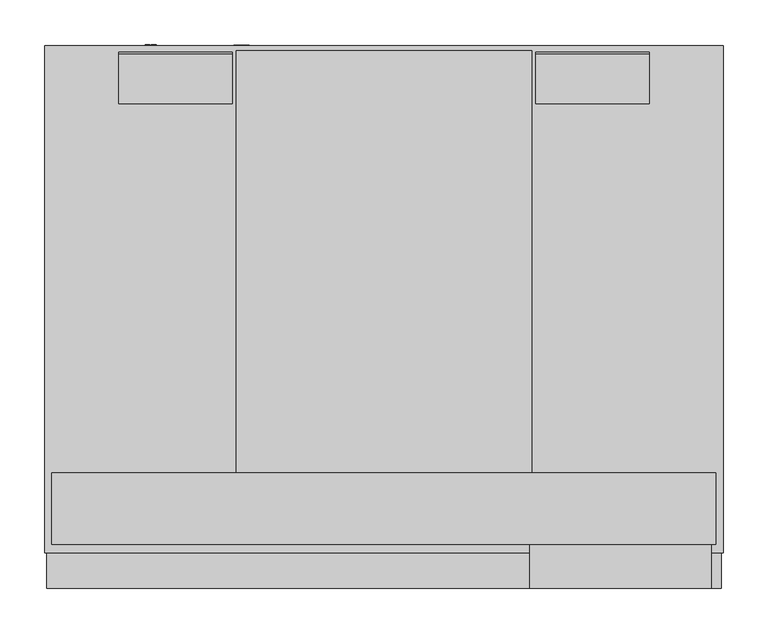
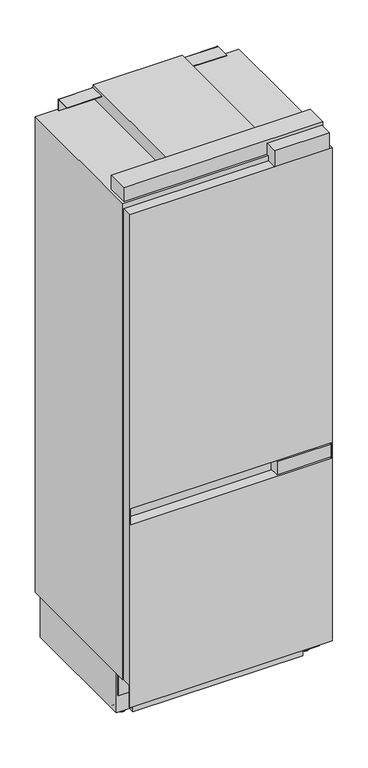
"""IFC4 building model written with IfcOpenShell, lengths in millimetres: proxy geometry, 12866490_GB_KFMC3834_R : 38383400_GB_12866490_KFMC3834_R."""

from ifc_helpers import new_model, si_unit, point, frame, frame_2d, origin, place, context, project, spatial, polyline, circle_curve, trimmed, segment, composite_curve, outline, extrude, faceted_brep, source, transform, mapped, element, save
from ifc_brep_helpers import plane_surface, cylinder_surface, advanced_brep


def specialty_equipment_2ff7b730(model_context):
    return source(origin(), model_context, "Body", "SolidModel", [
        extrude(outline(polyline([(372.4, 19.5805006), (172.4, 19.5805006), (172.4, 59.5250826), (372.4, 59.5250826), (372.4, 19.5805006)])), frame((0.0, 0.0, 828.4), z_axis=(0.0, 0.0, 1.0), x_axis=(1.0, 0.0, 0.0)), (0.0, 0.0, 1.0), 50.4801375),
        faceted_brep([(378.4, 19.5805006, 2048.9273907), (378.4, 19.5805006, 100.0958717), (378.4, 22.474204, 100.0958717), (378.4, 22.474204, 187.4499998), (378.4, 95.0, 187.4499998), (378.4, 95.0, 100.0958717), (378.4, 99.0001378, 100.0958717), (378.4, 99.0001378, 2048.9273907), (-378.4, 19.5805006, 2048.9273907), (-378.4, 99.0001378, 2048.9273907), (-378.4, 99.0001378, 100.0958717), (-378.4, 95.0, 100.0958717), (-378.4, 95.0, 187.4499998), (-378.4, 22.474204, 187.4499998), (-378.4, 22.474204, 100.0958717), (-378.4, 19.5805006, 100.0958717), (-374.4, 19.5805006, 884.8801375), (374.4, 19.5805006, 884.8801375), (374.4, 19.5805006, 822.4), (-374.4, 19.5805006, 822.4), (374.4, 93.7083842, 884.8801375), (-374.4, 93.7083842, 884.8801375), (-374.4, 93.7083842, 822.4), (374.4, 93.7083842, 822.4)], [[[0, 1, 2, 3, 4, 5, 6, 7]], [[8, 9, 10, 11, 12, 13, 14, 15]], [[1, 0, 8, 15], [16, 17, 18, 19]], [[1, 15, 14, 2]], [[10, 6, 5, 11]], [[7, 6, 10, 9]], [[0, 7, 9, 8]], [[13, 3, 2, 14]], [[4, 12, 11, 5]], [[3, 13, 12, 4]], [[20, 21, 22, 23]], [[21, 20, 17, 16]], [[22, 21, 16, 19]], [[23, 22, 19, 18]], [[20, 23, 18, 17]]]),
        extrude(outline(polyline([(367.3072021, 19.5805006), (163.5444763, 19.5805006), (163.5444763, 69.0), (367.3072021, 69.0), (367.3072021, 19.5805006)])), frame((0.0, 0.0, 2048.9273907), z_axis=(0.0, 0.0, 1.0), x_axis=(1.0, 0.0, 0.0)), (0.0, 0.0, 1.0), 63.9078998),
        extrude(outline(composite_curve([segment(trimmed(circle_curve(frame_2d((619.3046941, 2111.8999939)), 2.5), [point((619.3046941, 2114.3999939))], [point((621.8046941, 2111.8999939))], False, "CARTESIAN"), True, "CONTINUOUS"), segment(polyline([(621.8046941, 2111.8999939), (621.8046941, 2068.8999998), (619.3046941, 2068.8999998), (619.3046941, 2112.2000427), (563.7854458, 2112.2000427), (563.7854458, 2114.3999939), (619.3046941, 2114.3999939)]), True, "CONTINUOUS")], self_intersect=False)), frame((170.0666274, 0.0, 0.0), z_axis=(1.0, 0.0, 0.0), x_axis=(0.0, 1.0, 0.0)), (0.0, 0.0, 1.0), 127.807223),
        extrude(outline(composite_curve([segment(trimmed(circle_curve(frame_2d((619.3046941, 2111.8999939)), 2.5), [point((619.3046941, 2114.3999939))], [point((621.8046941, 2111.8999939))], False, "CARTESIAN"), True, "CONTINUOUS"), segment(polyline([(621.8046941, 2111.8999939), (621.8046941, 2068.8999998), (619.3046941, 2068.8999998), (619.3046941, 2112.2000427), (563.7854458, 2112.2000427), (563.7854458, 2114.3999939), (619.3046941, 2114.3999939)]), True, "CONTINUOUS")], self_intersect=False)), frame((-297.8738504, 0.0, 0.0), z_axis=(1.0, 0.0, 0.0), x_axis=(0.0, 1.0, 0.0)), (0.0, 0.0, 1.0), 127.807223),
        faceted_brep([(381.0, 628.6068181, 2068.8999998), (-381.0, 628.6068181, 2068.8999998), (-381.0, 59.5250826, 2068.8999998), (381.0, 59.5250826, 2068.8999998), (381.0, 628.6068181, 187.4499998), (381.0, 59.5250826, 187.4499998), (-381.0, 59.5250826, 187.4499998), (-381.0, 628.6068181, 187.4499998), (-332.0265198, 59.5250826, 1999.0), (332.0265198, 59.5250826, 1999.0), (332.0265198, 59.5250826, 920.0), (-332.0265198, 59.5250826, 920.0), (-332.0265198, 59.5250826, 777.0), (332.0265198, 59.5250826, 777.0), (332.0265198, 59.5250826, 250.0), (-332.0265198, 59.5250826, 250.0), (332.0265198, 551.4500008, 1999.0), (-332.0265198, 551.4500008, 1999.0), (-332.0265198, 551.4500008, 920.0), (332.0265198, 551.4500008, 920.0), (332.0265198, 535.9500008, 777.0), (-332.0265198, 535.9500008, 777.0), (-332.0265198, 535.9500008, 250.0), (332.0265198, 535.9500008, 250.0)], [[[0, 1, 2, 3]], [[4, 5, 6, 7]], [[0, 3, 5, 4]], [[3, 2, 6, 5], [8, 9, 10, 11], [12, 13, 14, 15]], [[2, 1, 7, 6]], [[1, 0, 4, 7]], [[16, 17, 18, 19]], [[17, 16, 9, 8]], [[18, 17, 8, 11]], [[19, 18, 11, 10]], [[16, 19, 10, 9]], [[20, 21, 22, 23]], [[21, 20, 13, 12]], [[22, 21, 12, 15]], [[23, 22, 15, 14]], [[20, 23, 14, 13]]]),
        advanced_brep(
        [(-379.5, 599.2160102, 187.4499998), (379.5, 599.2160102, 187.4499998), (379.5, 599.2160102, 27.500001), (317.3898346, 599.2160102, 27.500001), (317.3898346, 599.2160102, 10.4), (-317.3898346, 599.2160102, 10.4), (-317.3898346, 599.2160102, 27.500001), (-379.5, 599.2160102, 27.500001), (379.5, 104.7548719, 187.4499998), (-379.5, 104.7548719, 187.4499998), (-379.5, 104.7548719, 27.500001), (-317.3898346, 104.7548719, 27.500001), (-317.3898346, 104.7548719, 10.4), (317.3898346, 104.7548719, 10.4), (317.3898346, 104.7548719, 27.500001), (379.5, 104.7548719, 27.500001), (-337.4950732, 165.898232, 25.006546), (-337.4950732, 215.911324, 25.006546), (-337.4950732, 215.7866997, 27.500001), (-337.4950732, 166.0228563, 27.500001), (-337.4950732, 488.6286933, 25.006546), (-337.4950732, 538.6417854, 25.006546), (-337.4950732, 538.517161, 27.500001), (-337.4950732, 488.7533177, 27.500001), (-355.0, 215.911324, 25.006546), (-355.0, 165.898232, 25.006546), (-355.0, 166.0228563, 27.500001), (-355.0, 215.7866997, 27.500001), (-355.0, 538.6417854, 25.006546), (-355.0, 488.6286933, 25.006546), (-355.0, 488.7533177, 27.500001), (-355.0, 538.517161, 27.500001), (355.0, 165.898139, 25.006546), (355.0, 215.911231, 25.006546), (355.0, 215.7866067, 27.500001), (355.0, 166.0227633, 27.500001), (355.0, 488.6286933, 25.006546), (355.0, 538.6417854, 25.006546), (355.0, 538.517161, 27.500001), (355.0, 488.7533177, 27.500001), (337.4950732, 215.911231, 25.006546), (337.4950732, 165.898139, 25.006546), (337.4950732, 166.0227633, 27.500001), (337.4950732, 215.7866067, 27.500001), (337.4950732, 538.6417854, 25.006546), (337.4950732, 488.6286933, 25.006546), (337.4950732, 488.7533177, 27.500001), (337.4950732, 538.517161, 27.500001)],
        [
            (0, 1),
            (1, 2),
            (2, 3),
            (3, 4),
            (4, 5),
            (5, 6),
            (6, 7),
            (7, 0),
            (8, 9),
            (9, 10),
            (10, 11),
            (11, 12),
            (12, 13),
            (13, 14),
            (14, 15),
            (15, 8),
            (0, 9),
            (8, 1),
            (7, 10),
            (4, 13),
            (12, 5),
            (15, 2),
            (16, 17, circle_curve(frame((-337.4950732, 190.904778, 25.006546), z_axis=(1.0, 0.0, 0.0), x_axis=(0.0, 1.0, 0.0)), 25.006546)),
            (17, 18, circle_curve(frame((-337.4950732, 190.904778, 25.006546), z_axis=(1.0, 0.0, 0.0), x_axis=(0.0, 1.0, 0.0)), 25.006546)),
            (18, 19),
            (19, 16, circle_curve(frame((-337.4950732, 190.904778, 25.006546), z_axis=(1.0, 0.0, 0.0), x_axis=(0.0, 1.0, 0.0)), 25.006546)),
            (20, 21, circle_curve(frame((-337.4950732, 513.6352393, 25.006546), z_axis=(1.0, 0.0, 0.0), x_axis=(0.0, 1.0, 0.0)), 25.006546)),
            (21, 22, circle_curve(frame((-337.4950732, 513.6352393, 25.006546), z_axis=(1.0, 0.0, 0.0), x_axis=(0.0, 1.0, 0.0)), 25.006546)),
            (22, 23),
            (23, 20, circle_curve(frame((-337.4950732, 513.6352393, 25.006546), z_axis=(1.0, 0.0, 0.0), x_axis=(0.0, 1.0, 0.0)), 25.006546)),
            (24, 25, circle_curve(frame((-355.0, 190.904778, 25.006546), z_axis=(-1.0, 0.0, 0.0), x_axis=(0.0, 1.0, 0.0)), 25.006546)),
            (25, 26, circle_curve(frame((-355.0, 190.904778, 25.006546), z_axis=(-1.0, 0.0, 0.0), x_axis=(0.0, 1.0, 0.0)), 25.006546)),
            (26, 27),
            (27, 24, circle_curve(frame((-355.0, 190.904778, 25.006546), z_axis=(-1.0, 0.0, 0.0), x_axis=(0.0, 1.0, 0.0)), 25.006546)),
            (28, 29, circle_curve(frame((-355.0, 513.6352393, 25.006546), z_axis=(-1.0, 0.0, 0.0), x_axis=(0.0, 1.0, 0.0)), 25.006546)),
            (29, 30, circle_curve(frame((-355.0, 513.6352393, 25.006546), z_axis=(-1.0, 0.0, 0.0), x_axis=(0.0, 1.0, 0.0)), 25.006546)),
            (30, 31),
            (31, 28, circle_curve(frame((-355.0, 513.6352393, 25.006546), z_axis=(-1.0, 0.0, 0.0), x_axis=(0.0, 1.0, 0.0)), 25.006546)),
            (16, 25),
            (24, 17),
            (20, 29),
            (28, 21),
            (32, 33, circle_curve(frame((355.0, 190.904685, 25.006546), z_axis=(1.0, 0.0, 0.0), x_axis=(0.0, 1.0, 0.0)), 25.006546)),
            (33, 34, circle_curve(frame((355.0, 190.904685, 25.006546), z_axis=(1.0, 0.0, 0.0), x_axis=(0.0, 1.0, 0.0)), 25.006546)),
            (34, 35),
            (35, 32, circle_curve(frame((355.0, 190.904685, 25.006546), z_axis=(1.0, 0.0, 0.0), x_axis=(0.0, 1.0, 0.0)), 25.006546)),
            (36, 37, circle_curve(frame((355.0, 513.6352393, 25.006546), z_axis=(1.0, 0.0, 0.0), x_axis=(0.0, 1.0, 0.0)), 25.006546)),
            (37, 38, circle_curve(frame((355.0, 513.6352393, 25.006546), z_axis=(1.0, 0.0, 0.0), x_axis=(0.0, 1.0, 0.0)), 25.006546)),
            (38, 39),
            (39, 36, circle_curve(frame((355.0, 513.6352393, 25.006546), z_axis=(1.0, 0.0, 0.0), x_axis=(0.0, 1.0, 0.0)), 25.006546)),
            (40, 41, circle_curve(frame((337.4950732, 190.904685, 25.006546), z_axis=(-1.0, 0.0, 0.0), x_axis=(0.0, 1.0, 0.0)), 25.006546)),
            (41, 42, circle_curve(frame((337.4950732, 190.904685, 25.006546), z_axis=(-1.0, 0.0, 0.0), x_axis=(0.0, 1.0, 0.0)), 25.006546)),
            (42, 43),
            (43, 40, circle_curve(frame((337.4950732, 190.904685, 25.006546), z_axis=(-1.0, 0.0, 0.0), x_axis=(0.0, 1.0, 0.0)), 25.006546)),
            (44, 45, circle_curve(frame((337.4950732, 513.6352393, 25.006546), z_axis=(-1.0, 0.0, 0.0), x_axis=(0.0, 1.0, 0.0)), 25.006546)),
            (45, 46, circle_curve(frame((337.4950732, 513.6352393, 25.006546), z_axis=(-1.0, 0.0, 0.0), x_axis=(0.0, 1.0, 0.0)), 25.006546)),
            (46, 47),
            (47, 44, circle_curve(frame((337.4950732, 513.6352393, 25.006546), z_axis=(-1.0, 0.0, 0.0), x_axis=(0.0, 1.0, 0.0)), 25.006546)),
            (32, 41),
            (40, 33),
            (36, 45),
            (44, 37),
            (19, 26),
            (27, 18),
            (23, 30),
            (31, 22),
            (43, 34),
            (35, 42),
            (47, 38),
            (39, 46),
            (11, 6),
            (14, 3),
        ],
        [
            plane_surface(frame((-379.5, 599.2160102, 187.4499998), z_axis=(0.0, 1.0, 0.0), x_axis=(1.0, 0.0, 0.0))),
            plane_surface(frame((-379.5, 104.7548719, 187.4499998), z_axis=(0.0, -1.0, 0.0), x_axis=(-1.0, 0.0, 0.0))),
            plane_surface(frame((379.5, 104.7548719, 187.4499998), z_axis=(0.0, 0.0, 1.0), x_axis=(0.0, 1.0, 0.0))),
            plane_surface(frame((-379.5, 104.7548719, 187.4499998), z_axis=(-1.0, 0.0, 0.0), x_axis=(0.0, 1.0, 0.0))),
            plane_surface(frame((-379.5, 104.7548719, 10.4), z_axis=(0.0, 0.0, -1.0), x_axis=(0.0, 1.0, 0.0))),
            plane_surface(frame((379.5, 104.7548719, 10.4), z_axis=(1.0, 0.0, 0.0), x_axis=(0.0, 1.0, 0.0))),
            plane_surface(frame((-337.4950732, 215.911324, 25.006546), z_axis=(1.0, 0.0, 0.0), x_axis=(0.0, 0.0, 1.0))),
            plane_surface(frame((-355.0, 215.911324, 25.006546), z_axis=(-1.0, 0.0, 0.0), x_axis=(0.0, 0.0, -1.0))),
            cylinder_surface(frame((-355.0, 190.904778, 25.006546), z_axis=(1.0, 0.0, 0.0), x_axis=(0.0, 1.0, 0.0)), 25.006546),
            cylinder_surface(frame((0.0, 513.6352393, 25.006546), z_axis=(1.0, 0.0, 0.0), x_axis=(0.0, 1.0, 0.0)), 25.006546),
            plane_surface(frame((355.0, 215.911231, 25.006546), z_axis=(1.0, 0.0, 0.0), x_axis=(0.0, 0.0, 1.0))),
            plane_surface(frame((337.4950732, 215.911231, 25.006546), z_axis=(-1.0, 0.0, 0.0), x_axis=(0.0, 0.0, -1.0))),
            cylinder_surface(frame((355.0, 190.904685, 25.006546), z_axis=(-1.0, 0.0, 0.0), x_axis=(0.0, 1.0, 0.0)), 25.006546),
            cylinder_surface(frame((0.0, 513.6352393, 25.006546), z_axis=(-1.0, 0.0, 0.0), x_axis=(0.0, 1.0, 0.0)), 25.006546),
            plane_surface(frame((-317.3898346, -429.4357797, 0.0), z_axis=(-1.0, 0.0, 0.0), x_axis=(0.0, 1.0, 0.0))),
            plane_surface(frame((-317.3898346, -429.4357797, 27.500001), z_axis=(0.0, 0.0, -1.0), x_axis=(0.0, 1.0, 0.0))),
            plane_surface(frame((381.0, -429.4357797, 27.500001), z_axis=(0.0, 0.0, -1.0), x_axis=(0.0, 1.0, 0.0))),
            plane_surface(frame((317.3898346, -429.4357797, 27.500001), z_axis=(1.0, 0.0, 0.0), x_axis=(0.0, 1.0, 0.0))),
        ],
        [
            (0, [[1, 2, 3, 4, 5, 6, 7, 8]]),
            (1, [[9, 10, 11, 12, 13, 14, 15, 16]]),
            (2, [[-1, 17, -9, 18]]),
            (3, [[-17, -8, 19, -10]]),
            (4, [[-5, 20, -13, 21]]),
            (5, [[-18, -16, 22, -2]]),
            (6, [[23, 24, 25, 26]]),
            (6, [[27, 28, 29, 30]]),
            (7, [[31, 32, 33, 34]]),
            (7, [[35, 36, 37, 38]]),
            (8, [[-23, 39, -31, 40]]),
            (9, [[-27, 41, -35, 42]]),
            (10, [[43, 44, 45, 46]]),
            (10, [[47, 48, 49, 50]]),
            (11, [[51, 52, 53, 54]]),
            (11, [[55, 56, 57, 58]]),
            (12, [[-43, 59, -51, 60]]),
            (13, [[-47, 61, -55, 62]]),
            (8, [[-39, -26, 63, -32]]),
            (8, [[-40, -34, 64, -24]]),
            (9, [[-41, -30, 65, -36]]),
            (9, [[-42, -38, 66, -28]]),
            (12, [[-60, -54, 67, -44]]),
            (12, [[-59, -46, 68, -52]]),
            (13, [[-62, -58, 69, -48]]),
            (13, [[-61, -50, 70, -56]]),
            (14, [[71, -6, -21, -12]]),
            (15, [[-71, -11, -19, -7], [-25, -64, -33, -63], [-29, -66, -37, -65]]),
            (16, [[72, -3, -22, -15], [-45, -67, -53, -68], [-49, -69, -57, -70]]),
            (17, [[-72, -14, -20, -4]]),
        ],
    ),
        extrude(outline(composite_curve([segment(trimmed(circle_curve(frame_2d((-343.6, 136.7)), 15.0), [point((-358.6, 136.7))], [point((-328.6, 136.7))], False, "CARTESIAN"), True, "CONTINUOUS"), segment(trimmed(circle_curve(frame_2d((-343.6, 136.7)), 15.0), [point((-328.6, 136.7))], [point((-358.6, 136.7))], False, "CARTESIAN"), True, "CONTINUOUS")], self_intersect=False)), frame((0.0, 0.0, 10.4), z_axis=(0.0, 0.0, 1.0), x_axis=(1.0, 0.0, 0.0)), (0.0, 0.0, 1.0), 3.4999939),
        extrude(outline(composite_curve([segment(trimmed(circle_curve(frame_2d((343.6, 136.7)), 15.0), [point((328.6, 136.7))], [point((358.6, 136.7))], False, "CARTESIAN"), True, "CONTINUOUS"), segment(trimmed(circle_curve(frame_2d((343.6, 136.7)), 15.0), [point((358.6, 136.7))], [point((328.6, 136.7))], False, "CARTESIAN"), True, "CONTINUOUS")], self_intersect=False)), frame((0.0, 0.0, 10.4), z_axis=(0.0, 0.0, 1.0), x_axis=(1.0, 0.0, 0.0)), (0.0, 0.0, 1.0), 3.4999939),
        extrude(outline(composite_curve([segment(trimmed(circle_curve(frame_2d((343.6, 136.7)), 10.0), [point((333.6, 136.7))], [point((353.6, 136.7))], False, "CARTESIAN"), True, "CONTINUOUS"), segment(trimmed(circle_curve(frame_2d((343.6, 136.7)), 10.0), [point((353.6, 136.7))], [point((333.6, 136.7))], False, "CARTESIAN"), True, "CONTINUOUS")], self_intersect=False)), frame((0.0, 0.0, 13.8999939), z_axis=(0.0, 0.0, 1.0), x_axis=(1.0, 0.0, 0.0)), (0.0, 0.0, 1.0), 13.6000071),
        extrude(outline(composite_curve([segment(trimmed(circle_curve(frame_2d((-343.6, 136.7)), 10.0), [point((-353.6, 136.7))], [point((-333.6, 136.7))], False, "CARTESIAN"), True, "CONTINUOUS"), segment(trimmed(circle_curve(frame_2d((-343.6, 136.7)), 10.0), [point((-333.6, 136.7))], [point((-353.6, 136.7))], False, "CARTESIAN"), True, "CONTINUOUS")], self_intersect=False)), frame((0.0, 0.0, 13.8999939), z_axis=(0.0, 0.0, 1.0), x_axis=(1.0, 0.0, 0.0)), (0.0, 0.0, 1.0), 13.6000071),
        faceted_brep([(166.0, 623.4547186, 2122.8999939), (-166.0, 623.4547186, 2122.8999939), (-166.0, 149.0, 2122.8999939), (166.0, 149.0, 2122.8999939), (-166.0, 623.4547186, 2068.8999998), (166.0, 623.4547186, 2068.8999998), (166.0, 149.0, 2068.8999998), (372.1341127, 149.0, 2068.8999998), (372.1341127, 69.0, 2068.8999998), (-372.7652816, 69.0, 2068.8999998), (-372.7652816, 149.0, 2068.8999998), (-166.0, 149.0, 2068.8999998), (372.1341127, 69.0, 2124.5509637), (372.1341127, 149.0, 2124.5509637), (-372.7652816, 69.0, 2124.5509637), (-372.7652816, 149.0, 2124.5509637)], [[[0, 1, 2, 3]], [[4, 5, 6, 7, 8, 9, 10, 11]], [[5, 0, 3, 6]], [[1, 0, 5, 4]], [[1, 4, 11, 2]], [[12, 8, 7, 13]], [[14, 15, 10, 9]], [[8, 12, 14, 9]], [[13, 7, 6, 3, 2, 11, 10, 15]], [[12, 13, 15, 14]]]),
        extrude(outline(composite_curve([segment(trimmed(circle_curve(frame_2d((68.8909912, -261.5)), 8.0), [point((68.8909912, -269.5))], [point((68.8909912, -253.5))], False, "CARTESIAN"), True, "CONTINUOUS"), segment(trimmed(circle_curve(frame_2d((68.8909912, -261.5)), 8.0), [point((68.8909912, -253.5))], [point((68.8909912, -269.5))], False, "CARTESIAN"), True, "CONTINUOUS")], self_intersect=False)), frame((0.0, 599.2160102, 0.0), z_axis=(0.0, 1.0, 0.0), x_axis=(0.0, 0.0, 1.0)), (0.0, 0.0, 1.0), 30.0),
        extrude(outline(polyline([(64.7404068, -255.5981918), (72.7769116, -255.5981918), (72.7769116, -261.3744296), (71.7723485, -261.3744296), (71.7723485, -256.6027549), (69.3865111, -256.6027549), (69.3865111, -261.1232888), (68.381948, -261.1232888), (68.381948, -256.6027549), (65.7449699, -256.6027549), (65.7449699, -261.5), (64.7404068, -261.5), (64.7404068, -255.5981918)])), frame((0.0, 629.2160102, 0.0), z_axis=(0.0, 1.0, 0.0), x_axis=(0.0, 0.0, 1.0)), (0.0, 0.0, 1.0), 1.0),
        extrude(outline(polyline([(64.7404068, -263.0068447), (72.7769116, -263.0068447), (72.7769116, -264.0114078), (65.7449699, -264.0114078), (65.7449699, -268.0296602), (64.7404068, -268.0296602), (64.7404068, -263.0068447)])), frame((0.0, 629.2160102, 0.0), z_axis=(0.0, 1.0, 0.0), x_axis=(0.0, 0.0, 1.0)), (0.0, 0.0, 1.0), 1.0),
        extrude(outline(composite_curve([segment(trimmed(circle_curve(frame_2d((38.8909912, -159.5)), 8.0), [point((38.8909912, -167.5))], [point((38.8909912, -151.5))], False, "CARTESIAN"), True, "CONTINUOUS"), segment(trimmed(circle_curve(frame_2d((38.8909912, -159.5)), 8.0), [point((38.8909912, -151.5))], [point((38.8909912, -167.5))], False, "CARTESIAN"), True, "CONTINUOUS")], self_intersect=False)), frame((0.0, 599.2160102, 0.0), z_axis=(0.0, 1.0, 0.0), x_axis=(0.0, 0.0, 1.0)), (0.0, 0.0, 1.0), 30.0),
        extrude(outline(polyline([(35.5144425, -159.9875487), (43.5509473, -157.795953), (43.5509473, -158.8319087), (38.2691429, -160.1033089), (36.6386899, -160.4957164), (38.0807873, -160.9155923), (43.5509473, -162.5087666), (43.5509473, -164.001877), (39.5856699, -165.159479), (36.6386899, -166.0208134), (38.222054, -166.4014486), (43.5509473, -167.684621), (43.5509473, -168.7205767), (35.5144425, -166.527019), (35.5144425, -165.4537846), (41.7144804, -163.527064), (42.5797389, -163.2582649), (41.5378971, -162.9561111), (35.5144425, -161.2000877), (35.5144425, -159.9875487)])), frame((0.0, 628.6068181, 0.0), z_axis=(0.0, 1.0, 0.0), x_axis=(0.0, 0.0, 1.0)), (0.0, 0.0, 1.0), 1.0),
        extrude(outline(polyline([(35.5144425, -151.1407225), (43.5509473, -151.1407225), (43.5509473, -152.1452856), (39.6170625, -152.1452856), (43.5509473, -156.2655639), (43.5509473, -157.6703826), (40.2468765, -154.2113109), (35.5144425, -157.795953), (35.5144425, -156.5677177), (39.5680116, -153.4990913), (38.2769911, -152.1452856), (35.5144425, -152.1452856), (35.5144425, -151.1407225)])), frame((0.0, 628.6068181, 0.0), z_axis=(0.0, 1.0, 0.0), x_axis=(0.0, 0.0, 1.0)), (0.0, 0.0, 1.0), 1.0),
    ])


if __name__ == "__main__":
    model = new_model("IFC4")
    model_context = context("Model", 3, world=origin())
    ifc_project = project(units=[si_unit("LENGTHUNIT", "METRE", prefix="MILLI")], contexts=[model_context])
    site = spatial("IfcSite", under=ifc_project)
    building = spatial("IfcBuilding", under=site)
    placement = place(None, origin())
    specialty_equipment_shape = specialty_equipment_2ff7b730(model_context)
    element("IfcBuildingElementProxy", 1, Name="12866490_GB_KFMC3834_R : 38383400_GB_12866490_KFMC3834_R", ObjectType="12866490_GB_KFMC3834_R : 38383400_GB_12866490_KFMC3834_R", at=placement, inside=building, context=model_context, shape_type="MappedRepresentation", body=[
        mapped(specialty_equipment_shape, transform((0.0, 0.0, 0.0), x_axis=(1.0, 0.0, 0.0), y_axis=(0.0, 1.0, 0.0), z_axis=(0.0, 0.0, 1.0))),
    ])
    save(model, "model.ifc")
